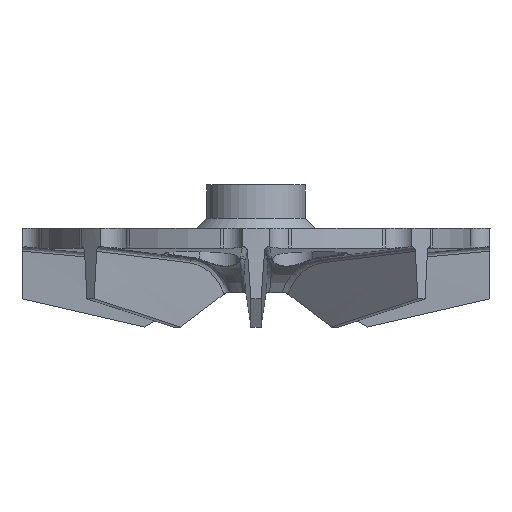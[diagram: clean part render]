
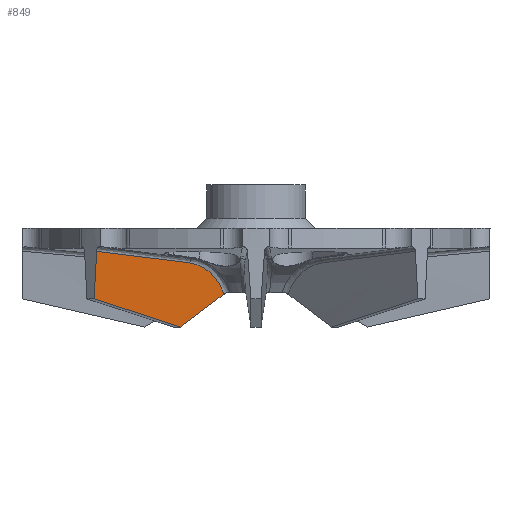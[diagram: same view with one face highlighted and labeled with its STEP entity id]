
A CAD part, left-side view. The second image highlights one B-rep face of the part: STEP entity #849.
In plain terms, the highlighted free-form (B-spline) face has degree [3, 1] with [12, 2] control points.
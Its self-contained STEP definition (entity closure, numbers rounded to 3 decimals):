
#849=ADVANCED_FACE('',(#3592),#3594,.T.);
#3592=FACE_BOUND('',#3593,.T.);
#3593=EDGE_LOOP('',(#9691,#9692,#9693,#9694,#9695));
#3594=B_SPLINE_SURFACE_WITH_KNOTS('',3,1,(
(#3595,#3596),
(#3597,#3598),
(#3599,#3600),
(#3601,#3602),
(#3603,#3604),
(#3605,#3606),
(#3607,#3608),
(#3609,#3610),
(#3611,#3612),
(#3613,#3614),
(#3615,#3616),
(#3617,#3618)),
.UNSPECIFIED.,.F.,.F.,.F.,
(4,1,1,1,2,1,1,1,4),
(2,2),
(0.,0.095,0.189,0.284,0.378,0.534,
0.689,0.845,1.),
(0.,1.),
.UNSPECIFIED.);
#3595=CARTESIAN_POINT('',(-68.204,62.61,-18.042));
#3596=CARTESIAN_POINT('',(-0.275,-8.369,-27.273));
#3597=CARTESIAN_POINT('',(-68.161,62.654,-18.888));
#3598=CARTESIAN_POINT('',(-1.294,-7.166,-28.18));
#3599=CARTESIAN_POINT('',(-68.113,62.702,-19.821));
#3600=CARTESIAN_POINT('',(-3.585,-4.464,-30.219));
#3601=CARTESIAN_POINT('',(-68.043,62.771,-21.171));
#3602=CARTESIAN_POINT('',(-8.582,1.432,-34.666));
#3603=CARTESIAN_POINT('',(-67.974,62.841,-22.521));
#3604=CARTESIAN_POINT('',(-13.58,7.328,-39.113));
#3605=CARTESIAN_POINT('',(-67.926,62.889,-23.454));
#3606=CARTESIAN_POINT('',(-15.871,10.03,-41.152));
#3607=CARTESIAN_POINT('',(-67.811,63.004,-25.692));
#3608=CARTESIAN_POINT('',(-18.566,13.211,-43.551));
#3609=CARTESIAN_POINT('',(-67.651,63.164,-28.793));
#3610=CARTESIAN_POINT('',(-21.196,16.313,-45.891));
#3611=CARTESIAN_POINT('',(-67.352,63.463,-34.6));
#3612=CARTESIAN_POINT('',(-24.756,20.513,-49.059));
#3613=CARTESIAN_POINT('',(-67.053,63.762,-40.407));
#3614=CARTESIAN_POINT('',(-28.316,24.714,-52.227));
#3615=CARTESIAN_POINT('',(-66.893,63.921,-43.508));
#3616=CARTESIAN_POINT('',(-30.946,27.816,-54.567));
#3617=CARTESIAN_POINT('',(-66.822,63.993,-44.9));
#3618=CARTESIAN_POINT('',(-32.622,29.794,-56.059));
#9691=ORIENTED_EDGE('',*,*,#11154,.T.);
#9692=ORIENTED_EDGE('',*,*,#11155,.T.);
#9693=ORIENTED_EDGE('',*,*,#11156,.F.);
#9694=ORIENTED_EDGE('',*,*,#10918,.T.);
#9695=ORIENTED_EDGE('',*,*,#11152,.T.);
#10918=EDGE_CURVE('',#11882,#11886,#11888,.T.);
#11152=EDGE_CURVE('',#11886,#12289,#12291,.T.);
#11154=EDGE_CURVE('',#12289,#12293,#12294,.T.);
#11155=EDGE_CURVE('',#12293,#12295,#12296,.T.);
#11156=EDGE_CURVE('',#11882,#12295,#12297,.T.);
#11882=VERTEX_POINT('',#15422);
#11886=VERTEX_POINT('',#15430);
#11888=B_SPLINE_CURVE_WITH_KNOTS('',1,
(#15434,#15435),
.UNSPECIFIED.,.F.,.F.,
(2,2),
(0.,1.),
.UNSPECIFIED.);
#12289=VERTEX_POINT('',#19081);
#12291=B_SPLINE_CURVE_WITH_KNOTS('',3,
(#19104,#19105,#19106,#19107,#19108,#19109,#19110),
.UNSPECIFIED.,.F.,.F.,
(4,1,1,1,4),
(0.,0.266,0.532,0.799,1.),
.UNSPECIFIED.);
#12293=VERTEX_POINT('',#19133);
#12294=B_SPLINE_CURVE_WITH_KNOTS('',3,
(#19134,#19135,#19136,#19137,#19138,#19139,#19140,#19141,#19142,#19143,#19144,#19145,
#19146,#19147,#19148,#19149,#19150,#19151,#19152,#19153,#19154,#19155,#19156,#19157,
#19158,#19159,#19160,#19161,#19162,#19163,#19164,#19165,#19166,#19167,#19168,#19169,
#19170),
.UNSPECIFIED.,.F.,.F.,
(4,1,1,1,1,1,1,1,1,1,1,1,1,1,1,1,1,1,1,1,1,1,1,1,1,1,1,1,1,1,1,1,1,1,4),
(0.,0.048,0.088,0.119,0.141,0.164,
0.187,0.214,0.242,0.267,0.289,
0.309,0.339,0.375,0.411,0.439,
0.465,0.497,0.531,0.562,0.594,
0.63,0.667,0.699,0.732,0.765,
0.796,0.827,0.858,0.892,0.921,
0.947,0.968,0.984,1.),
.UNSPECIFIED.);
#12295=VERTEX_POINT('',#19171);
#12296=B_SPLINE_CURVE_WITH_KNOTS('',3,
(#19172,#19173,#19174,#19175,#19176,#19177,#19178,#19179,#19180,#19181,#19182,#19183,
#19184,#19185,#19186),
.UNSPECIFIED.,.F.,.F.,
(4,1,1,1,1,1,1,1,1,1,1,1,4),
(0.,0.046,0.109,0.198,0.335,0.485,
0.625,0.73,0.805,0.864,0.916,
0.961,1.),
.UNSPECIFIED.);
#12297=B_SPLINE_CURVE_WITH_KNOTS('',3,
(#19187,#19188,#19189,#19190,#19191),
.UNSPECIFIED.,.F.,.F.,
(4,1,4),
(0.,0.5,1.),
.UNSPECIFIED.);
#15422=CARTESIAN_POINT('',(-66.7,63.872,-44.94));
#15430=CARTESIAN_POINT('',(-32.622,29.794,-56.059));
#15434=CARTESIAN_POINT('',(-66.7,63.872,-44.94));
#15435=CARTESIAN_POINT('',(-32.622,29.794,-56.059));
#19081=CARTESIAN_POINT('',(-18.054,12.606,-43.094));
#19104=CARTESIAN_POINT('',(-32.622,29.794,-56.059));
#19105=CARTESIAN_POINT('',(-30.946,27.816,-54.567));
#19106=CARTESIAN_POINT('',(-28.316,24.714,-52.227));
#19107=CARTESIAN_POINT('',(-24.756,20.513,-49.059));
#19108=CARTESIAN_POINT('',(-21.484,16.654,-46.148));
#19109=CARTESIAN_POINT('',(-19.202,13.961,-44.117));
#19110=CARTESIAN_POINT('',(-18.054,12.606,-43.094));
#19133=CARTESIAN_POINT('',(-32.34,26.129,-30.737));
#19134=CARTESIAN_POINT('',(-18.054,12.606,-43.094));
#19135=CARTESIAN_POINT('',(-18.212,12.728,-42.76));
#19136=CARTESIAN_POINT('',(-18.503,12.956,-42.155));
#19137=CARTESIAN_POINT('',(-18.922,13.295,-41.364));
#19138=CARTESIAN_POINT('',(-19.264,13.577,-40.757));
#19139=CARTESIAN_POINT('',(-19.552,13.818,-40.272));
#19140=CARTESIAN_POINT('',(-19.817,14.042,-39.844));
#19141=CARTESIAN_POINT('',(-20.104,14.287,-39.395));
#19142=CARTESIAN_POINT('',(-20.419,14.559,-38.927));
#19143=CARTESIAN_POINT('',(-20.753,14.851,-38.456));
#19144=CARTESIAN_POINT('',(-21.075,15.135,-38.022));
#19145=CARTESIAN_POINT('',(-21.369,15.397,-37.641));
#19146=CARTESIAN_POINT('',(-21.683,15.677,-37.246));
#19147=CARTESIAN_POINT('',(-22.064,16.021,-36.789));
#19148=CARTESIAN_POINT('',(-22.532,16.448,-36.266));
#19149=CARTESIAN_POINT('',(-22.997,16.878,-35.778));
#19150=CARTESIAN_POINT('',(-23.422,17.272,-35.353));
#19151=CARTESIAN_POINT('',(-23.833,17.657,-34.961));
#19152=CARTESIAN_POINT('',(-24.286,18.084,-34.557));
#19153=CARTESIAN_POINT('',(-24.767,18.542,-34.156));
#19154=CARTESIAN_POINT('',(-25.258,19.012,-33.774));
#19155=CARTESIAN_POINT('',(-25.766,19.503,-33.402));
#19156=CARTESIAN_POINT('',(-26.318,20.039,-33.027));
#19157=CARTESIAN_POINT('',(-26.87,20.58,-32.684));
#19158=CARTESIAN_POINT('',(-27.411,21.114,-32.377));
#19159=CARTESIAN_POINT('',(-27.93,21.629,-32.106));
#19160=CARTESIAN_POINT('',(-28.453,22.151,-31.856));
#19161=CARTESIAN_POINT('',(-28.967,22.667,-31.634));
#19162=CARTESIAN_POINT('',(-29.476,23.182,-31.438));
#19163=CARTESIAN_POINT('',(-29.998,23.713,-31.26));
#19164=CARTESIAN_POINT('',(-30.515,24.241,-31.105));
#19165=CARTESIAN_POINT('',(-31.003,24.743,-30.979));
#19166=CARTESIAN_POINT('',(-31.424,25.177,-30.887));
#19167=CARTESIAN_POINT('',(-31.775,25.541,-30.821));
#19168=CARTESIAN_POINT('',(-32.072,25.849,-30.775));
#19169=CARTESIAN_POINT('',(-32.252,26.038,-30.75));
#19170=CARTESIAN_POINT('',(-32.34,26.129,-30.737));
#19171=CARTESIAN_POINT('',(-67.64,62.875,-26.164));
#19172=CARTESIAN_POINT('',(-32.34,26.129,-30.737));
#19173=CARTESIAN_POINT('',(-32.879,26.693,-30.67));
#19174=CARTESIAN_POINT('',(-34.162,28.032,-30.507));
#19175=CARTESIAN_POINT('',(-36.481,30.451,-30.2));
#19176=CARTESIAN_POINT('',(-39.86,33.975,-29.746));
#19177=CARTESIAN_POINT('',(-44.319,38.631,-29.194));
#19178=CARTESIAN_POINT('',(-49.316,43.839,-28.531));
#19179=CARTESIAN_POINT('',(-53.989,48.707,-27.941));
#19180=CARTESIAN_POINT('',(-57.749,52.615,-27.435));
#19181=CARTESIAN_POINT('',(-60.564,55.539,-27.083));
#19182=CARTESIAN_POINT('',(-62.755,57.812,-26.796));
#19183=CARTESIAN_POINT('',(-64.592,59.717,-26.56));
#19184=CARTESIAN_POINT('',(-66.197,61.38,-26.35));
#19185=CARTESIAN_POINT('',(-67.185,62.403,-26.222));
#19186=CARTESIAN_POINT('',(-67.64,62.875,-26.164));
#19187=CARTESIAN_POINT('',(-66.7,63.872,-44.94));
#19188=CARTESIAN_POINT('',(-66.858,63.707,-41.81));
#19189=CARTESIAN_POINT('',(-67.173,63.376,-35.552));
#19190=CARTESIAN_POINT('',(-67.485,63.043,-29.293));
#19191=CARTESIAN_POINT('',(-67.64,62.875,-26.164));
